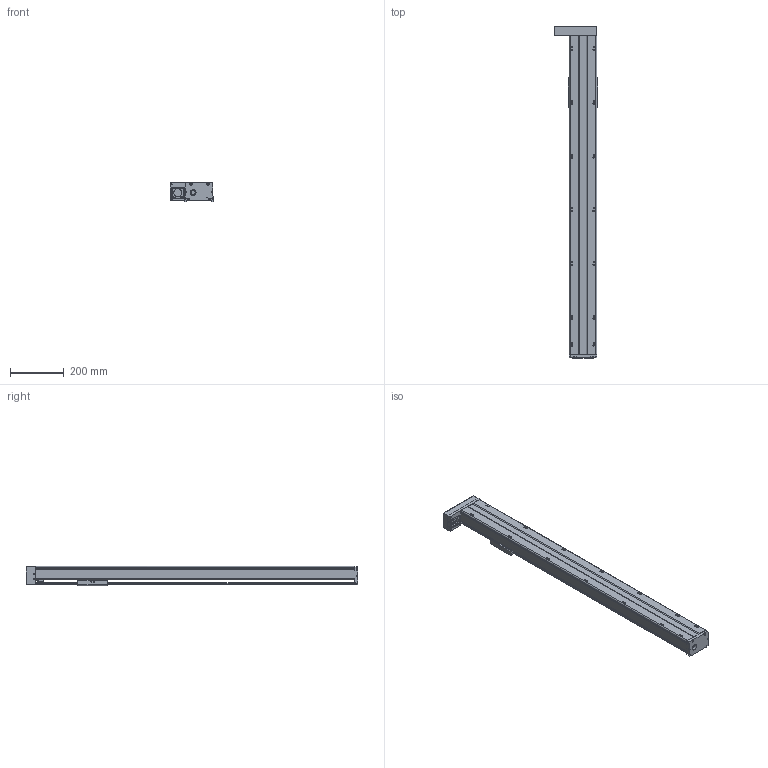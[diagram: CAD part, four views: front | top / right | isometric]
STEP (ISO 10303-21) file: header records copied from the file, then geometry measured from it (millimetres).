
FILE_DESCRIPTION(/* description */ (''),/* implementation_level */ '2;1');
FILE_NAME(/* name */ 'TKA100-FL-1000_asm1.stp',/* time_stamp */ '2016-05-17T15:00:04+08:00',/* author */ (''),/* organization */ (''),/* preprocessor_version */ 'ST-DEVELOPER v15',/* originating_system */ 'SIEMENS PLM Software NX 8.5',/* authorisation */ '');
FILE_SCHEMA (('AUTOMOTIVE_DESIGN { 1 0 10303 214 3 1 1 1 }'));
Length unit declared in the file: millimetre
Products named in the file (3): 200-2; 200-1; TKA100-FL-1000_asm1
Assembly tree (2 placements, depth 2):
  TKA100-FL-1000_asm1
    200-1
    200-2
Bounding box: 162 x 1236 x 71 mm (x, y, z)
Volume: 2533530.5 mm3; surface area: 861795.7 mm2
Topology: 2 solids, 16 shells, 808 faces, 2114 edges, 1374 vertices
Faces by surface type: plane 319, cylinder 310, cone 125, torus 28, bspline 26
Full cylindrical faces by diameter (mm): 2.5 x6, 2.6 x8, 3.3 x11, 3.4 x4, 3.8 x8, 4.2 x23, 4.3 x4, 4.5 x10, 5 x2, 5.5 x22, 6.6 x4, 8 x4, 9 x6, 10 x8, 11 x4, 12 x6, 15.3 x1, 16 x1, 22 x1, 24 x1, 28 x2, 30 x1, 33 x1
Entity records: 29710 total; most frequent: CARTESIAN_POINT 10892, DIRECTION 3853, ORIENTED_EDGE 3648, EDGE_CURVE 1824, AXIS2_PLACEMENT_3D 1523, VERTEX_POINT 1300, EDGE_LOOP 1129, ADVANCED_FACE 808
